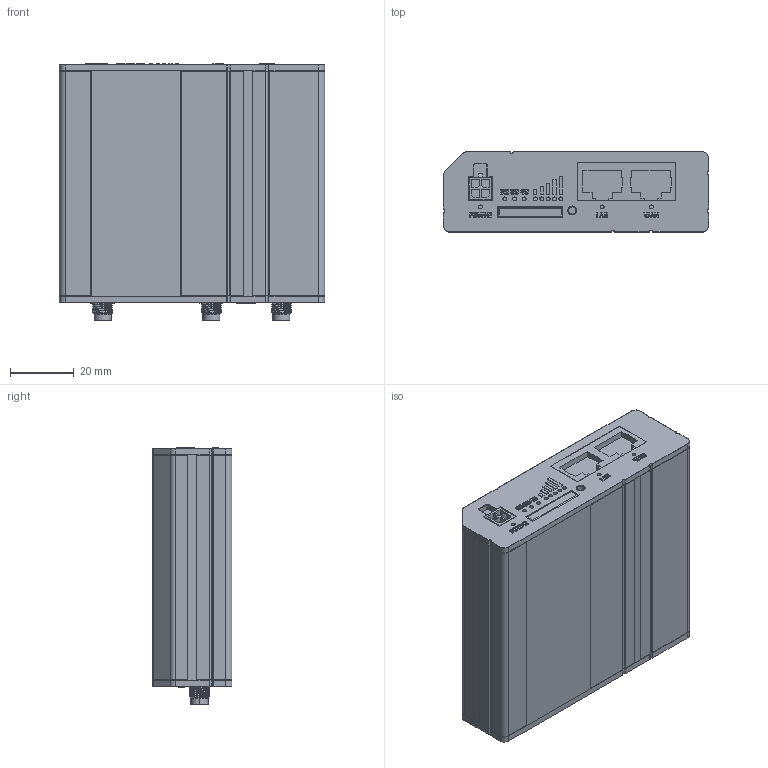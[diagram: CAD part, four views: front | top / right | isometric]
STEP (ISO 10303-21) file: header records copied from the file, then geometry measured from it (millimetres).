
FILE_DESCRIPTION (( 'STEP AP203' ), '1' );
FILE_NAME ('UCR-B5.STEP', '2020-04-07T12:42:29', ( '' ), ( '' ), 'SwSTEP 2.0', 'SolidWorks 2017', '' );
FILE_SCHEMA (( 'CONFIG_CONTROL_DESIGN' ));
Products named in the file (2): UCR-B5
Bounding box: 83 x 25 x 80.25 mm (x, y, z)
Volume: 152051.4 mm3; surface area: 21541.2 mm2
Topology: 1 solids, 1 shells, 1515 faces, 4143 edges, 2683 vertices
Faces by surface type: plane 744, bspline 501, cylinder 209, cone 57, sphere 4
Entity records: 71384 total; most frequent: CARTESIAN_POINT 36800, ORIENTED_EDGE 8206, DIRECTION 5401, EDGE_CURVE 4103, VERTEX_POINT 2680, LINE 2363, VECTOR 2363, EDGE_LOOP 1599
